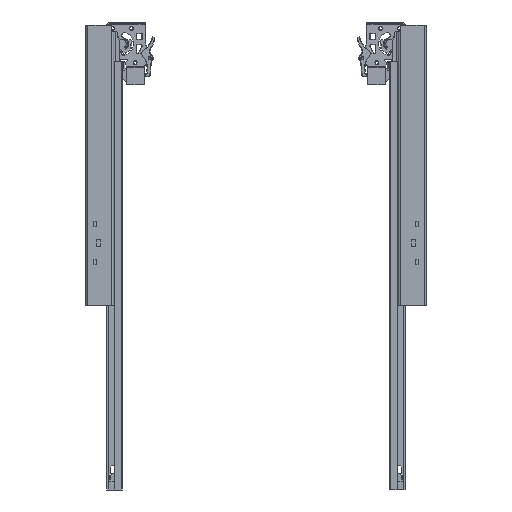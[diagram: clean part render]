
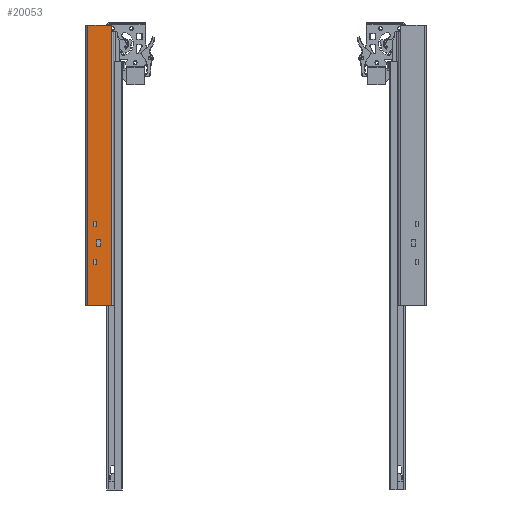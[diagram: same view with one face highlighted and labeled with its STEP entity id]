
A CAD part, front view. The second image highlights one B-rep face of the part: STEP entity #20053.
In plain terms, the highlighted planar face has unit normal (0, -1, 0).
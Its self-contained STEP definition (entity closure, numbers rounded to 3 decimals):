
#621=FACE_BOUND('',#4012,.T.);
#622=FACE_BOUND('',#4013,.T.);
#623=FACE_BOUND('',#4014,.T.);
#1315=CIRCLE('',#21525,0.5);
#1317=CIRCLE('',#21529,0.5);
#2755=FACE_OUTER_BOUND('',#4011,.T.);
#4011=EDGE_LOOP('',(#13187,#13188,#13189,#13190,#13191,#13192,#13193,#13194));
#4012=EDGE_LOOP('',(#13195,#13196,#13197,#13198));
#4013=EDGE_LOOP('',(#13199,#13200,#13201,#13202));
#4014=EDGE_LOOP('',(#13203,#13204,#13205,#13206));
#5275=LINE('',#30392,#6663);
#5279=LINE('',#30400,#6667);
#5282=LINE('',#30406,#6670);
#5285=LINE('',#30411,#6673);
#5287=LINE('',#30417,#6675);
#5291=LINE('',#30425,#6679);
#5294=LINE('',#30431,#6682);
#5297=LINE('',#30436,#6685);
#5299=LINE('',#30442,#6687);
#5303=LINE('',#30450,#6691);
#5306=LINE('',#30456,#6694);
#5309=LINE('',#30461,#6697);
#5380=LINE('',#30779,#6768);
#5386=LINE('',#30798,#6774);
#5410=LINE('',#30878,#6798);
#5442=LINE('',#30963,#6830);
#5443=LINE('',#30967,#6831);
#5444=LINE('',#30968,#6832);
#6663=VECTOR('',#23911,10.);
#6667=VECTOR('',#23917,10.);
#6670=VECTOR('',#23922,10.);
#6673=VECTOR('',#23927,10.);
#6675=VECTOR('',#23933,10.);
#6679=VECTOR('',#23939,10.);
#6682=VECTOR('',#23944,10.);
#6685=VECTOR('',#23949,10.);
#6687=VECTOR('',#23955,10.);
#6691=VECTOR('',#23961,10.);
#6694=VECTOR('',#23966,10.);
#6697=VECTOR('',#23971,10.);
#6768=VECTOR('',#24336,10.);
#6774=VECTOR('',#24354,10.);
#6798=VECTOR('',#24424,10.);
#6830=VECTOR('',#24518,10.);
#6831=VECTOR('',#24523,10.);
#6832=VECTOR('',#24524,10.);
#8051=VERTEX_POINT('',#30390);
#8052=VERTEX_POINT('',#30391);
#8055=VERTEX_POINT('',#30399);
#8057=VERTEX_POINT('',#30405);
#8059=VERTEX_POINT('',#30415);
#8060=VERTEX_POINT('',#30416);
#8063=VERTEX_POINT('',#30424);
#8065=VERTEX_POINT('',#30430);
#8067=VERTEX_POINT('',#30440);
#8068=VERTEX_POINT('',#30441);
#8071=VERTEX_POINT('',#30449);
#8073=VERTEX_POINT('',#30455);
#8173=VERTEX_POINT('',#30776);
#8174=VERTEX_POINT('',#30778);
#8179=VERTEX_POINT('',#30790);
#8181=VERTEX_POINT('',#30796);
#8183=VERTEX_POINT('',#30802);
#8214=VERTEX_POINT('',#30876);
#8236=VERTEX_POINT('',#30962);
#8237=VERTEX_POINT('',#30966);
#9777=EDGE_CURVE('',#8051,#8052,#5275,.T.);
#9781=EDGE_CURVE('',#8052,#8055,#5279,.T.);
#9784=EDGE_CURVE('',#8055,#8057,#5282,.T.);
#9787=EDGE_CURVE('',#8057,#8051,#5285,.T.);
#9789=EDGE_CURVE('',#8059,#8060,#5287,.T.);
#9793=EDGE_CURVE('',#8060,#8063,#5291,.T.);
#9796=EDGE_CURVE('',#8063,#8065,#5294,.T.);
#9799=EDGE_CURVE('',#8065,#8059,#5297,.T.);
#9801=EDGE_CURVE('',#8067,#8068,#5299,.T.);
#9805=EDGE_CURVE('',#8068,#8071,#5303,.T.);
#9808=EDGE_CURVE('',#8071,#8073,#5306,.T.);
#9811=EDGE_CURVE('',#8073,#8067,#5309,.T.);
#9969=EDGE_CURVE('',#8174,#8173,#5380,.T.);
#9976=EDGE_CURVE('',#8179,#8173,#1315,.T.);
#9979=EDGE_CURVE('',#8179,#8181,#5386,.T.);
#9982=EDGE_CURVE('',#8183,#8181,#1317,.T.);
#10019=EDGE_CURVE('',#8214,#8183,#5410,.T.);
#10061=EDGE_CURVE('',#8174,#8236,#5442,.T.);
#10063=EDGE_CURVE('',#8214,#8237,#5443,.T.);
#10064=EDGE_CURVE('',#8236,#8237,#5444,.T.);
#13187=ORIENTED_EDGE('',*,*,#9982,.F.);
#13188=ORIENTED_EDGE('',*,*,#10019,.F.);
#13189=ORIENTED_EDGE('',*,*,#10063,.T.);
#13190=ORIENTED_EDGE('',*,*,#10064,.F.);
#13191=ORIENTED_EDGE('',*,*,#10061,.F.);
#13192=ORIENTED_EDGE('',*,*,#9969,.T.);
#13193=ORIENTED_EDGE('',*,*,#9976,.F.);
#13194=ORIENTED_EDGE('',*,*,#9979,.T.);
#13195=ORIENTED_EDGE('',*,*,#9777,.T.);
#13196=ORIENTED_EDGE('',*,*,#9781,.T.);
#13197=ORIENTED_EDGE('',*,*,#9784,.T.);
#13198=ORIENTED_EDGE('',*,*,#9787,.T.);
#13199=ORIENTED_EDGE('',*,*,#9789,.T.);
#13200=ORIENTED_EDGE('',*,*,#9793,.T.);
#13201=ORIENTED_EDGE('',*,*,#9796,.T.);
#13202=ORIENTED_EDGE('',*,*,#9799,.T.);
#13203=ORIENTED_EDGE('',*,*,#9801,.T.);
#13204=ORIENTED_EDGE('',*,*,#9805,.T.);
#13205=ORIENTED_EDGE('',*,*,#9808,.T.);
#13206=ORIENTED_EDGE('',*,*,#9811,.T.);
#18571=PLANE('',#21582);
#20053=ADVANCED_FACE('',(#2755,#621,#622,#623),#18571,.T.);
#21525=AXIS2_PLACEMENT_3D('',#30792,#24348,#24349);
#21529=AXIS2_PLACEMENT_3D('',#30804,#24360,#24361);
#21582=AXIS2_PLACEMENT_3D('',#30965,#24521,#24522);
#23911=DIRECTION('',(0.,0.,1.));
#23917=DIRECTION('',(1.,0.,0.));
#23922=DIRECTION('',(0.,0.,-1.));
#23927=DIRECTION('',(-1.,0.,0.));
#23933=DIRECTION('',(0.,0.,1.));
#23939=DIRECTION('',(1.,0.,0.));
#23944=DIRECTION('',(0.,0.,-1.));
#23949=DIRECTION('',(-1.,0.,0.));
#23955=DIRECTION('',(0.,0.,1.));
#23961=DIRECTION('',(1.,0.,0.));
#23966=DIRECTION('',(0.,0.,-1.));
#23971=DIRECTION('',(-1.,0.,0.));
#24336=DIRECTION('',(-1.,0.,0.));
#24348=DIRECTION('center_axis',(0.,-1.,0.));
#24349=DIRECTION('ref_axis',(-0.707,0.,-0.707));
#24354=DIRECTION('',(0.,0.,1.));
#24360=DIRECTION('center_axis',(0.,1.,0.));
#24361=DIRECTION('ref_axis',(0.707,0.,0.707));
#24424=DIRECTION('',(1.,0.,0.));
#24518=DIRECTION('',(0.,0.,-1.));
#24521=DIRECTION('center_axis',(0.,-1.,0.));
#24522=DIRECTION('ref_axis',(-1.,0.,0.));
#24523=DIRECTION('',(0.,0.,-1.));
#24524=DIRECTION('',(-1.,0.,0.));
#30390=CARTESIAN_POINT('',(9.,0.,-237.));
#30391=CARTESIAN_POINT('',(9.,0.,-231.));
#30392=CARTESIAN_POINT('',(9.,0.,-115.5));
#30399=CARTESIAN_POINT('',(12.5,0.,-231.));
#30400=CARTESIAN_POINT('',(21.5,0.,-231.));
#30405=CARTESIAN_POINT('',(12.5,0.,-237.));
#30406=CARTESIAN_POINT('',(12.5,0.,-118.5));
#30411=CARTESIAN_POINT('',(19.75,0.,-237.));
#30415=CARTESIAN_POINT('',(9.,0.,-281.));
#30416=CARTESIAN_POINT('',(9.,0.,-275.));
#30417=CARTESIAN_POINT('',(9.,0.,-137.5));
#30424=CARTESIAN_POINT('',(12.5,0.,-275.));
#30425=CARTESIAN_POINT('',(21.5,0.,-275.));
#30430=CARTESIAN_POINT('',(12.5,0.,-281.));
#30431=CARTESIAN_POINT('',(12.5,0.,-140.5));
#30436=CARTESIAN_POINT('',(19.75,0.,-281.));
#30440=CARTESIAN_POINT('',(12.5,0.,-260.));
#30441=CARTESIAN_POINT('',(12.5,0.,-252.));
#30442=CARTESIAN_POINT('',(12.5,0.,-126.));
#30449=CARTESIAN_POINT('',(17.5,0.,-252.));
#30450=CARTESIAN_POINT('',(24.,0.,-252.));
#30455=CARTESIAN_POINT('',(17.5,0.,-260.));
#30456=CARTESIAN_POINT('',(17.5,0.,-130.));
#30461=CARTESIAN_POINT('',(21.5,0.,-260.));
#30776=CARTESIAN_POINT('',(30.,0.,-7.5));
#30778=CARTESIAN_POINT('',(30.5,0.,-7.5));
#30779=CARTESIAN_POINT('',(33.5,0.,-7.5));
#30790=CARTESIAN_POINT('',(29.5,0.,-7.));
#30792=CARTESIAN_POINT('Origin',(30.,0.,-7.));
#30796=CARTESIAN_POINT('',(29.5,0.,-0.5));
#30798=CARTESIAN_POINT('',(29.5,0.,-3.75));
#30802=CARTESIAN_POINT('',(29.,0.,0.));
#30804=CARTESIAN_POINT('Origin',(29.,0.,
-0.5));
#30876=CARTESIAN_POINT('',(2.,0.,0.));
#30878=CARTESIAN_POINT('',(2.,0.,0.));
#30962=CARTESIAN_POINT('',(30.5,0.,-330.));
#30963=CARTESIAN_POINT('',(30.5,0.,0.));
#30965=CARTESIAN_POINT('Origin',(30.5,0.,0.));
#30966=CARTESIAN_POINT('',(2.,0.,-330.));
#30967=CARTESIAN_POINT('',(2.,0.,0.));
#30968=CARTESIAN_POINT('',(2.,0.,-330.));
